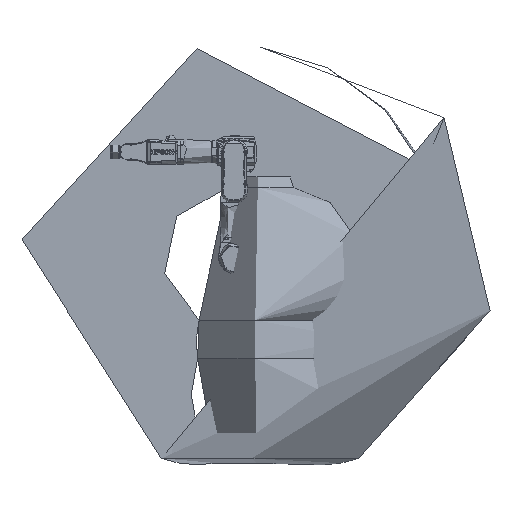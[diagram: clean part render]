
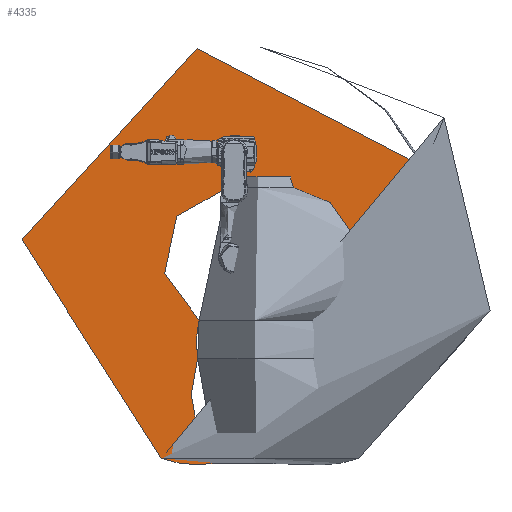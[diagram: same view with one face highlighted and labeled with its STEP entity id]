
A CAD part, top view. The second image highlights one B-rep face of the part: STEP entity #4335.
In plain terms, the highlighted planar face has unit normal (0, 0, 1).
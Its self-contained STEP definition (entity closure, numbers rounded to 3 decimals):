
#4335 = ADVANCED_FACE( '', ( #10166 ), #10167, .T. );
#10166 = FACE_OUTER_BOUND( '', #18453, .T. );
#10167 = PLANE( '', #18454 );
#18453 = EDGE_LOOP( '', ( #31808, #31809, #31810, #31811, #31812, #31813, #31814, #31815, #31816, #31817 ) );
#18454 = AXIS2_PLACEMENT_3D( '', #31818, #31819, #31820 );
#31808 = ORIENTED_EDGE( '', *, *, #47711, .T. );
#31809 = ORIENTED_EDGE( '', *, *, #47712, .T. );
#31810 = ORIENTED_EDGE( '', *, *, #47713, .T. );
#31811 = ORIENTED_EDGE( '', *, *, #47714, .F. );
#31812 = ORIENTED_EDGE( '', *, *, #44354, .F. );
#31813 = ORIENTED_EDGE( '', *, *, #45101, .F. );
#31814 = ORIENTED_EDGE( '', *, *, #44372, .T. );
#31815 = ORIENTED_EDGE( '', *, *, #47715, .T. );
#31816 = ORIENTED_EDGE( '', *, *, #43572, .F. );
#31817 = ORIENTED_EDGE( '', *, *, #47716, .F. );
#31818 = CARTESIAN_POINT( '', ( 362.523, 169.047, 5. ) );
#31819 = DIRECTION( '', ( 0., 0., 1. ) );
#31820 = DIRECTION( '', ( 1., 0., 0. ) );
#43572 = EDGE_CURVE( '', #51297, #51299, #51300, .T. );
#44354 = EDGE_CURVE( '', #52686, #52688, #52689, .T. );
#44372 = EDGE_CURVE( '', #52720, #52718, #52721, .T. );
#45101 = EDGE_CURVE( '', #52720, #52686, #53949, .T. );
#47711 = EDGE_CURVE( '', #57983, #57984, #57985, .T. );
#47712 = EDGE_CURVE( '', #57984, #57986, #57987, .T. );
#47713 = EDGE_CURVE( '', #57986, #57988, #57989, .T. );
#47714 = EDGE_CURVE( '', #52688, #57988, #57990, .T. );
#47715 = EDGE_CURVE( '', #52718, #51299, #57991, .T. );
#47716 = EDGE_CURVE( '', #57983, #51297, #57992, .T. );
#51297 = VERTEX_POINT( '', #62701 );
#51299 = VERTEX_POINT( '', #62704 );
#51300 = CIRCLE( '', #62705, 306.1 );
#52686 = VERTEX_POINT( '', #64878 );
#52688 = VERTEX_POINT( '', #64881 );
#52689 = CIRCLE( '', #64882, 400. );
#52718 = VERTEX_POINT( '', #64930 );
#52720 = VERTEX_POINT( '', #64933 );
#52721 = LINE( '', #64934, #64935 );
#53949 = CIRCLE( '', #67102, 267. );
#57983 = VERTEX_POINT( '', #74402 );
#57984 = VERTEX_POINT( '', #74403 );
#57985 = CIRCLE( '', #74404, 400. );
#57986 = VERTEX_POINT( '', #74405 );
#57987 = CIRCLE( '', #74406, 800. );
#57988 = VERTEX_POINT( '', #74407 );
#57989 = CIRCLE( '', #74408, 400. );
#57990 = CIRCLE( '', #74409, 400. );
#57991 = LINE( '', #74410, #74411 );
#57992 = CIRCLE( '', #74412, 400. );
#62701 = CARTESIAN_POINT( '', ( 282.779, 117.19, 5. ) );
#62704 = CARTESIAN_POINT( '', ( -13.368, 305.808, 5. ) );
#62705 = AXIS2_PLACEMENT_3D( '', #81045, #81046, #81047 );
#64878 = CARTESIAN_POINT( '', ( -131.489, -232.378, 5. ) );
#64881 = CARTESIAN_POINT( '', ( -136.808, -375.877, 5. ) );
#64882 = AXIS2_PLACEMENT_3D( '', #82167, #82168, #82169 );
#64930 = CARTESIAN_POINT( '', ( -25.595, 265.816, 5. ) );
#64933 = CARTESIAN_POINT( '', ( -25.607, 265.769, 5. ) );
#64934 = CARTESIAN_POINT( '', ( -25.607, 265.769, 5. ) );
#64935 = VECTOR( '', #82187, 1000. );
#67102 = AXIS2_PLACEMENT_3D( '', #83087, #83088, #83089 );
#74402 = CARTESIAN_POINT( '', ( 499.331, -206.83, 5. ) );
#74403 = CARTESIAN_POINT( '', ( 725.046, 338.095, 5. ) );
#74404 = AXIS2_PLACEMENT_3D( '', #86344, #86345, #86346 );
#74405 = CARTESIAN_POINT( '', ( -273.616, -751.754, 5. ) );
#74406 = AXIS2_PLACEMENT_3D( '', #86347, #86348, #86349 );
#74407 = CARTESIAN_POINT( '', ( -67.349, -769.8, 5. ) );
#74408 = AXIS2_PLACEMENT_3D( '', #86350, #86351, #86352 );
#74409 = AXIS2_PLACEMENT_3D( '', #86353, #86354, #86355 );
#74410 = CARTESIAN_POINT( '', ( -25.595, 265.816, 5. ) );
#74411 = VECTOR( '', #86356, 1000. );
#74412 = AXIS2_PLACEMENT_3D( '', #86357, #86358, #86359 );
#81045 = CARTESIAN_POINT( '', ( 0., 0., 5. ) );
#81046 = DIRECTION( '', ( 0., 0., 1. ) );
#81047 = DIRECTION( '', ( 1., 0., 0. ) );
#82167 = CARTESIAN_POINT( '', ( 259.085, -318.703, 5. ) );
#82168 = DIRECTION( '', ( 0., 0., 1. ) );
#82169 = DIRECTION( '', ( 1., 0., 0. ) );
#82187 = DIRECTION( '', ( 0.246, 0.969, 0. ) );
#83087 = CARTESIAN_POINT( '', ( 0., 0., 5. ) );
#83088 = DIRECTION( '', ( 0., 0., 1. ) );
#83089 = DIRECTION( '', ( 1., 0., 0. ) );
#86344 = CARTESIAN_POINT( '', ( 362.523, 169.047, 5. ) );
#86345 = DIRECTION( '', ( 0., 0., 1. ) );
#86346 = DIRECTION( '', ( 1., 0., 0. ) );
#86347 = CARTESIAN_POINT( '', ( 0., 0., 5. ) );
#86348 = DIRECTION( '', ( 0., 0., 1. ) );
#86349 = DIRECTION( '', ( 1., 0., 0. ) );
#86350 = CARTESIAN_POINT( '', ( -136.808, -375.877, 5. ) );
#86351 = DIRECTION( '', ( 0., 0., 1. ) );
#86352 = DIRECTION( '', ( 1., 0., 0. ) );
#86353 = CARTESIAN_POINT( '', ( 239.069, -512.685, 5. ) );
#86354 = DIRECTION( '', ( 0., 0., 1. ) );
#86355 = DIRECTION( '', ( 1., 0., 0. ) );
#86356 = DIRECTION( '', ( 0.292, 0.956, 0. ) );
#86357 = CARTESIAN_POINT( '', ( 100.621, -238.926, 5. ) );
#86358 = DIRECTION( '', ( 0., 0., 1. ) );
#86359 = DIRECTION( '', ( 1., 0., 0. ) );
